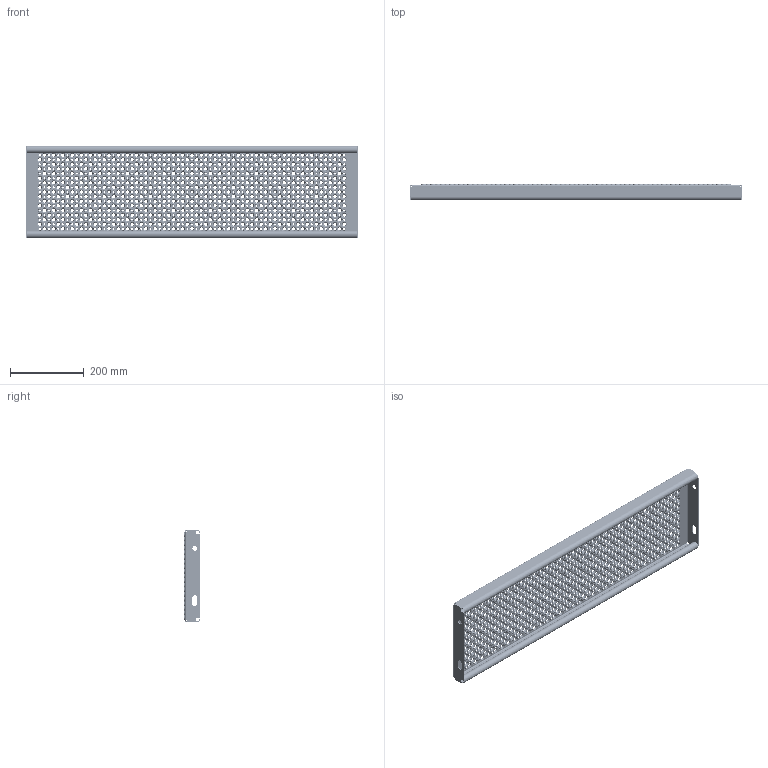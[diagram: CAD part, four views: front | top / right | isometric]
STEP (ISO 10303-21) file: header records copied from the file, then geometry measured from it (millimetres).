
FILE_DESCRIPTION (( 'STEP AP214' ), '1' );
FILE_NAME ('OPTIMO-Tread-Achil-O2-900x250x45x2-st240-F100310100.STEP', '2021-03-16T11:06:05', ( '' ), ( '' ), 'SwSTEP 2.0', 'SolidWorks 2021', '' );
FILE_SCHEMA (( 'AUTOMOTIVE_DESIGN' ));
Length unit declared in the file: millimetre
Products named in the file (1): OPTIMO-Tread-Achil-O2-900x250x45x2-st240-F100310100
Bounding box: 900 x 45 x 250 mm (x, y, z)
Volume: 768753.7 mm3; surface area: 836603.4 mm2
Topology: 1 solids, 1 shells, 12812 faces, 33298 edges, 20488 vertices
Faces by surface type: cone 7638, torus 5092, plane 38, cylinder 36, bspline 8
Entity records: 407728 total; most frequent: DIRECTION 84392, CARTESIAN_POINT 67191, ORIENTED_EDGE 66596, AXIS2_PLACEMENT_3D 38321, EDGE_CURVE 33298, CIRCLE 25516, VERTEX_POINT 20488, EDGE_LOOP 15366
